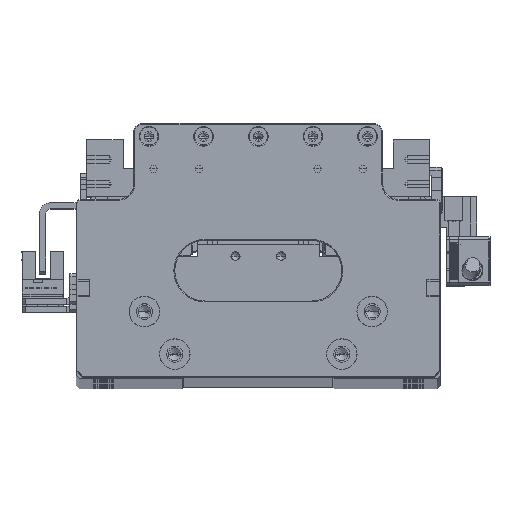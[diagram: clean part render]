
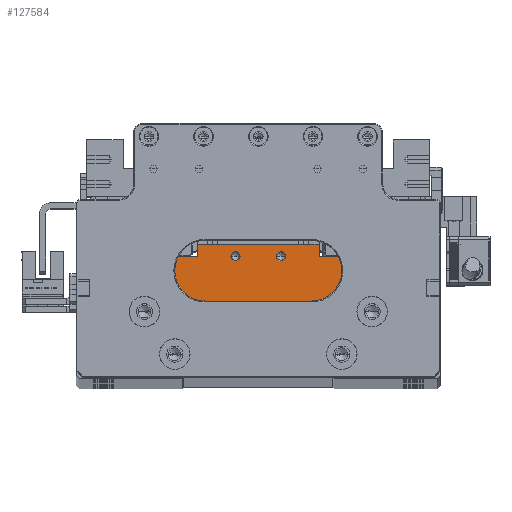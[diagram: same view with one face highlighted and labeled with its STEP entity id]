
A CAD part, top view. The second image highlights one B-rep face of the part: STEP entity #127584.
In plain terms, the highlighted planar face has unit normal (0, 0, 1).
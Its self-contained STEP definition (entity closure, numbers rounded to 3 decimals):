
#2040 = ORIENTED_EDGE ( 'NONE', *, *, #132053, .F. ) ;
#4617 = VECTOR ( 'NONE', #51898, 1000. ) ;
#5028 = VERTEX_POINT ( 'NONE', #100759 ) ;
#6667 = VECTOR ( 'NONE', #134289, 1000. ) ;
#13958 = CARTESIAN_POINT ( 'NONE',  ( -21.694, -1.296, 411.036 ) ) ;
#14905 = ORIENTED_EDGE ( 'NONE', *, *, #43813, .F. ) ;
#16754 = CARTESIAN_POINT ( 'NONE',  ( -9.194, -1.296, 411.036 ) ) ;
#17401 = VERTEX_POINT ( 'NONE', #46236 ) ;
#23098 = VECTOR ( 'NONE', #36063, 1000. ) ;
#28600 = LINE ( 'NONE', #13958, #135609 ) ;
#28602 = LINE ( 'NONE', #99988, #57014 ) ;
#29183 = AXIS2_PLACEMENT_3D ( 'NONE', #95555, #31588, #106351 ) ;
#29979 = CARTESIAN_POINT ( 'NONE',  ( -31.594, -12.996, 411.036 ) ) ;
#31588 = DIRECTION ( 'NONE',  ( 0., 0., 1. ) ) ;
#31777 = EDGE_CURVE ( 'NONE', #128709, #61412, #41610, .T. ) ;
#33880 = EDGE_LOOP ( 'NONE', ( #84580, #90708, #54777, #77593, #93459, #113782, #14905, #2040 ) ) ;
#33920 = CARTESIAN_POINT ( 'NONE',  ( -9.194, 6.304, 411.036 ) ) ;
#34576 = VERTEX_POINT ( 'NONE', #36693 ) ;
#36063 = DIRECTION ( 'NONE',  ( 1., 0., 0. ) ) ;
#36693 = CARTESIAN_POINT ( 'NONE',  ( -21.694, 10.204, 411.036 ) ) ;
#37004 = EDGE_CURVE ( 'NONE', #5028, #100912, #54820, .T. ) ;
#39354 = FACE_BOUND ( 'NONE', #54582, .T. ) ;
#41610 = CIRCLE ( 'NONE', #72717, 1.525 ) ;
#43813 = EDGE_CURVE ( 'NONE', #34576, #90120, #28602, .T. ) ;
#43989 = EDGE_CURVE ( 'NONE', #108721, #17401, #65304, .T. ) ;
#44663 = DIRECTION ( 'NONE',  ( 1., 0., 0. ) ) ;
#46236 = CARTESIAN_POINT ( 'NONE',  ( 4.281, 6.304, 411.036 ) ) ;
#47280 = AXIS2_PLACEMENT_3D ( 'NONE', #33920, #108731, #44663 ) ;
#48406 = ORIENTED_EDGE ( 'NONE', *, *, #71724, .F. ) ;
#51144 = LINE ( 'NONE', #96157, #104687 ) ;
#51898 = DIRECTION ( 'NONE',  ( 1., 0., 0. ) ) ;
#52046 = VERTEX_POINT ( 'NONE', #118245 ) ;
#54582 = EDGE_LOOP ( 'NONE', ( #100653, #122834 ) ) ;
#54777 = ORIENTED_EDGE ( 'NONE', *, *, #65764, .T. ) ;
#54820 = LINE ( 'NONE', #100092, #23098 ) ;
#55555 = CARTESIAN_POINT ( 'NONE',  ( 28.206, -12.996, 411.036 ) ) ;
#56971 = CIRCLE ( 'NONE', #47280, 1.525 ) ;
#57014 = VECTOR ( 'NONE', #88738, 1000. ) ;
#59558 = VERTEX_POINT ( 'NONE', #100959 ) ;
#59698 = CARTESIAN_POINT ( 'NONE',  ( -9.194, 6.304, 411.036 ) ) ;
#60150 = DIRECTION ( 'NONE',  ( -1., 0., 0. ) ) ;
#60653 = CARTESIAN_POINT ( 'NONE',  ( 5.806, 6.304, 411.036 ) ) ;
#60846 = VECTOR ( 'NONE', #95068, 1000. ) ;
#61412 = VERTEX_POINT ( 'NONE', #135569 ) ;
#65304 = CIRCLE ( 'NONE', #101176, 1.525 ) ;
#65764 = EDGE_CURVE ( 'NONE', #76416, #132913, #133325, .T. ) ;
#65907 = VECTOR ( 'NONE', #82619, 1000. ) ;
#70444 = DIRECTION ( 'NONE',  ( 1., 0., 0. ) ) ;
#71389 = DIRECTION ( 'NONE',  ( 1., 0., 0. ) ) ;
#71724 = EDGE_CURVE ( 'NONE', #17401, #108721, #94801, .T. ) ;
#71900 = CARTESIAN_POINT ( 'NONE',  ( -9.194, 6.204, 411.036 ) ) ;
#72717 = AXIS2_PLACEMENT_3D ( 'NONE', #59698, #134522, #70444 ) ;
#73828 = CARTESIAN_POINT ( 'NONE',  ( -9.194, -12.996, 411.036 ) ) ;
#75823 = AXIS2_PLACEMENT_3D ( 'NONE', #16754, #124215, #60150 ) ;
#76416 = VERTEX_POINT ( 'NONE', #29979 ) ;
#76698 = CARTESIAN_POINT ( 'NONE',  ( -7.669, 6.304, 411.036 ) ) ;
#77593 = ORIENTED_EDGE ( 'NONE', *, *, #85038, .F. ) ;
#82619 = DIRECTION ( 'NONE',  ( 1., 0., 0. ) ) ;
#84269 = CARTESIAN_POINT ( 'NONE',  ( 28.206, -1.296, 411.036 ) ) ;
#84580 = ORIENTED_EDGE ( 'NONE', *, *, #120144, .F. ) ;
#85038 = EDGE_CURVE ( 'NONE', #100912, #132913, #95989, .T. ) ;
#88594 = ORIENTED_EDGE ( 'NONE', *, *, #43989, .F. ) ;
#88738 = DIRECTION ( 'NONE',  ( 1., 0., 0. ) ) ;
#90001 = DIRECTION ( 'NONE',  ( 0., 1., 0. ) ) ;
#90120 = VERTEX_POINT ( 'NONE', #127608 ) ;
#90708 = ORIENTED_EDGE ( 'NONE', *, *, #101024, .F. ) ;
#93459 = ORIENTED_EDGE ( 'NONE', *, *, #37004, .F. ) ;
#94801 = CIRCLE ( 'NONE', #29183, 1.525 ) ;
#95068 = DIRECTION ( 'NONE',  ( 0., -1., 0. ) ) ;
#95243 = LINE ( 'NONE', #123543, #6667 ) ;
#95555 = CARTESIAN_POINT ( 'NONE',  ( 5.806, 6.304, 411.036 ) ) ;
#95989 = LINE ( 'NONE', #84269, #60846 ) ;
#96157 = CARTESIAN_POINT ( 'NONE',  ( -31.594, -1.296, 411.036 ) ) ;
#96161 = EDGE_CURVE ( 'NONE', #61412, #128709, #56971, .T. ) ;
#96248 = FACE_BOUND ( 'NONE', #96440, .T. ) ;
#96440 = EDGE_LOOP ( 'NONE', ( #88594, #48406 ) ) ;
#99988 = CARTESIAN_POINT ( 'NONE',  ( -9.194, 10.204, 411.036 ) ) ;
#100092 = CARTESIAN_POINT ( 'NONE',  ( -9.194, 6.204, 411.036 ) ) ;
#100653 = ORIENTED_EDGE ( 'NONE', *, *, #31777, .F. ) ;
#100759 = CARTESIAN_POINT ( 'NONE',  ( 18.306, 6.204, 411.036 ) ) ;
#100912 = VERTEX_POINT ( 'NONE', #105559 ) ;
#100959 = CARTESIAN_POINT ( 'NONE',  ( -31.594, 6.204, 411.036 ) ) ;
#101024 = EDGE_CURVE ( 'NONE', #76416, #59558, #51144, .T. ) ;
#101176 = AXIS2_PLACEMENT_3D ( 'NONE', #60653, #135475, #71389 ) ;
#104687 = VECTOR ( 'NONE', #106957, 1000. ) ;
#105559 = CARTESIAN_POINT ( 'NONE',  ( 28.206, 6.204, 411.036 ) ) ;
#106103 = CARTESIAN_POINT ( 'NONE',  ( 7.331, 6.304, 411.036 ) ) ;
#106351 = DIRECTION ( 'NONE',  ( 1., 0., 0. ) ) ;
#106957 = DIRECTION ( 'NONE',  ( 0., 1., 0. ) ) ;
#108721 = VERTEX_POINT ( 'NONE', #106103 ) ;
#108731 = DIRECTION ( 'NONE',  ( 0., 0., 1. ) ) ;
#113462 = EDGE_CURVE ( 'NONE', #90120, #5028, #95243, .T. ) ;
#113467 = PLANE ( 'NONE',  #75823 ) ;
#113782 = ORIENTED_EDGE ( 'NONE', *, *, #113462, .F. ) ;
#118245 = CARTESIAN_POINT ( 'NONE',  ( -21.694, 6.204, 411.036 ) ) ;
#119474 = LINE ( 'NONE', #71900, #65907 ) ;
#120144 = EDGE_CURVE ( 'NONE', #59558, #52046, #119474, .T. ) ;
#122834 = ORIENTED_EDGE ( 'NONE', *, *, #96161, .F. ) ;
#123543 = CARTESIAN_POINT ( 'NONE',  ( 18.306, -1.296, 411.036 ) ) ;
#124215 = DIRECTION ( 'NONE',  ( 0., 0., -1. ) ) ;
#124695 = FACE_OUTER_BOUND ( 'NONE', #33880, .T. ) ;
#127584 = ADVANCED_FACE ( 'NONE', ( #124695, #96248, #39354 ), #113467, .F. ) ;
#127608 = CARTESIAN_POINT ( 'NONE',  ( 18.306, 10.204, 411.036 ) ) ;
#128709 = VERTEX_POINT ( 'NONE', #76698 ) ;
#132053 = EDGE_CURVE ( 'NONE', #52046, #34576, #28600, .T. ) ;
#132913 = VERTEX_POINT ( 'NONE', #55555 ) ;
#133325 = LINE ( 'NONE', #73828, #4617 ) ;
#134289 = DIRECTION ( 'NONE',  ( 0., -1., 0. ) ) ;
#134522 = DIRECTION ( 'NONE',  ( 0., 0., 1. ) ) ;
#135475 = DIRECTION ( 'NONE',  ( 0., 0., 1. ) ) ;
#135569 = CARTESIAN_POINT ( 'NONE',  ( -10.719, 6.304, 411.036 ) ) ;
#135609 = VECTOR ( 'NONE', #90001, 1000. ) ;
